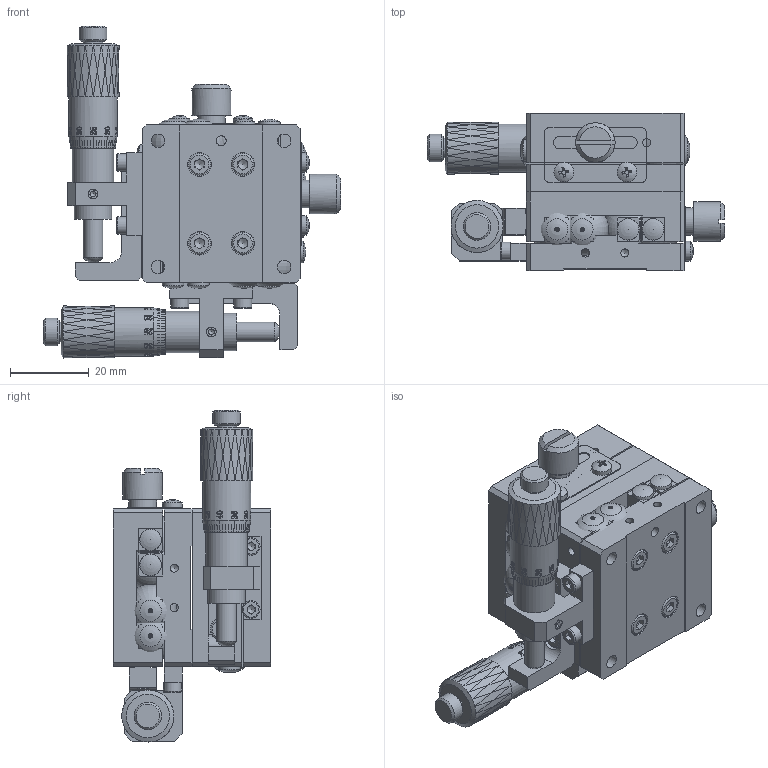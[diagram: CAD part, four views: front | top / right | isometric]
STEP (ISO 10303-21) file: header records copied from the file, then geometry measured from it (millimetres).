
FILE_DESCRIPTION (( 'STEP AP203' ), '1' );
FILE_NAME ('BPB40.STEP', '2024-07-23T11:55:49', ( 'Windows User' ), ( 'P R C' ), 'SwSTEP 2.0', 'SolidWorks 2024', '' );
FILE_SCHEMA (( 'CONFIG_CONTROL_DESIGN' ));
Products named in the file (1): BPB40
Bounding box: 75.4 x 40 x 84.2 mm (x, y, z)
Volume: 60554.4 mm3; surface area: 59157 mm2
Topology: 58 solids, 58 shells, 2882 faces, 7182 edges, 4652 vertices
Faces by surface type: plane 1182, bspline 790, cylinder 520, cone 344, torus 40, sphere 6
Full cylindrical faces by diameter (mm): 2 x20, 2.05 x30, 2.5 x34, 2.55 x16, 2.95 x18, 3 x26, 3.1 x4, 3.2 x4, 3.4 x24, 4.4 x16, 4.5 x4, 5 x12, 5.5 x20, 5.8 x4, 6 x24, 7 x4, 8.5 x2, 9.5 x4, 10 x2, 10.5 x2, 12.2 x2
Entity records: 145117 total; most frequent: CARTESIAN_POINT 86981, ORIENTED_EDGE 13032, DIRECTION 8828, EDGE_CURVE 6516, VERTEX_POINT 4450, EDGE_LOOP 3802, AXIS2_PLACEMENT_3D 3273, FACE_OUTER_BOUND 3148
